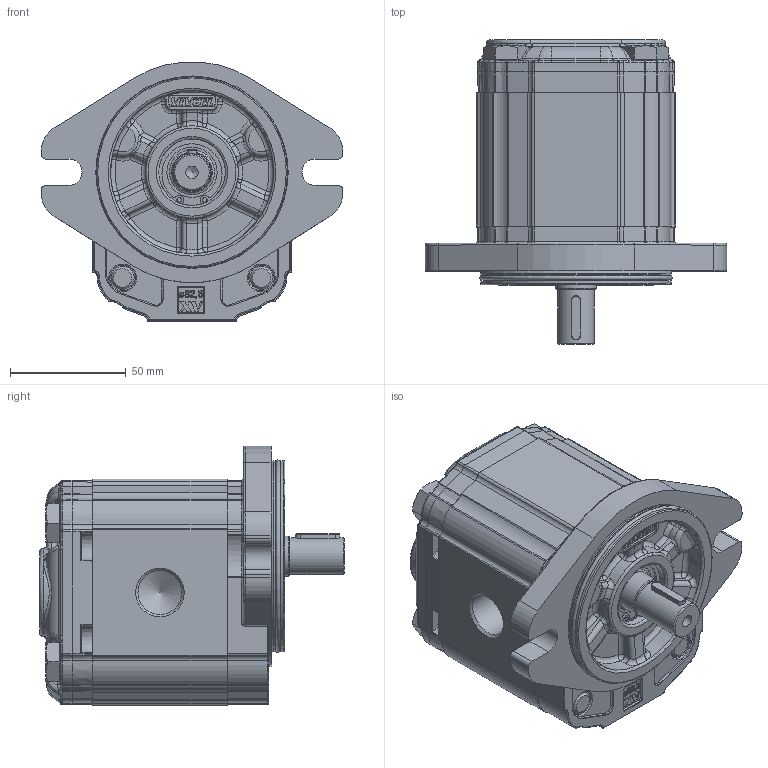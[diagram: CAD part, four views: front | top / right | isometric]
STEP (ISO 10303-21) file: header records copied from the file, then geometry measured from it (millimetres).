
FILE_DESCRIPTION(/* description */ ('Unknown'),/* implementation_level */ '2;1');
FILE_NAME(/* name */ 'X2P4751BBBA',/* time_stamp */ '2021-07-16T13:45:10+02:00',/* author */ ('Unknown'),/* organization */ ('Unknown'),/* preprocessor_version */ 'ST-DEVELOPER v16.7',/* originating_system */ 'Solid Edge',/* authorisation */ 'Unknown');
FILE_SCHEMA (('AUTOMOTIVE_DESIGN {1 0 10303 214 3 1 1}'));
Products named in the file (5): X2P4751BBBA; X2P51; 2B; X2BBH58; XP219-A
Assembly tree (4 placements, depth 2):
  X2P4751BBBA
    X2P51
    2B
    X2BBH58
    XP219-A
Bounding box: 130.38 x 131.7 x 112.3 mm (x, y, z)
Volume: 761748.1 mm3; surface area: 106201.3 mm2
Topology: 4 solids, 6 shells, 2083 faces, 5105 edges, 3093 vertices
Faces by surface type: cylinder 619, plane 573, bspline 537, torus 243, cone 73, sphere 38
Full cylindrical faces by diameter (mm): 2 x2, 5.367 x1, 10 x4, 10.5 x4, 11 x2, 15.875 x1, 16 x4, 17.42 x1, 17.48 x2, 18.631 x1, 18.724 x1, 19 x1, 20.595 x1, 21.741 x1, 25.834 x1, 28.56 x1, 28.57 x1, 28.8 x1, 30.4 x1, 79.6 x2, 82.5 x2
Entity records: 88509 total; most frequent: CARTESIAN_POINT 29273, ORIENTED_EDGE 9858, DIRECTION 8227, EDGE_CURVE 4929, AXIS2_PLACEMENT_3D 3098, VERTEX_POINT 3042, FACE_BOUND 2271, EDGE_LOOP 2267
